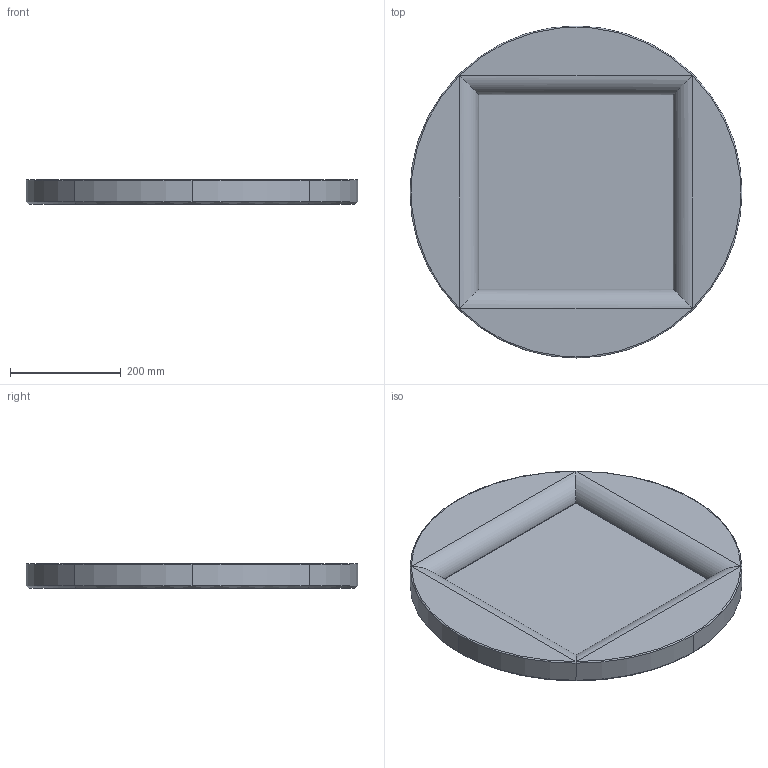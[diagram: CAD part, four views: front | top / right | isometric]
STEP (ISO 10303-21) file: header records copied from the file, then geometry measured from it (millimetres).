
FILE_DESCRIPTION (( 'STEP AP203' ), '1' );
FILE_NAME ('SIGNET MIRROR 60.STEP', '2025-08-29T11:24:36', ( '' ), ( '' ), 'SwSTEP 2.0', 'SolidWorks 2025', '' );
FILE_SCHEMA (( 'CONFIG_CONTROL_DESIGN' ));
Length unit declared in the file: millimetre
Products named in the file (2): SIGNET MIRROR 60; Group1^SIGNET MIRROR 60
Assembly tree (1 placements, depth 2):
  SIGNET MIRROR 60
    Group1^SIGNET MIRROR 60
Bounding box: 600 x 600 x 45 mm (x, y, z)
Volume: 7633288.9 mm3; surface area: 973948.9 mm2
Topology: 2 solids, 2 shells, 60 faces, 124 edges, 68 vertices
Faces by surface type: plane 40, cylinder 12, torus 4, cone 4
Entity records: 1718 total; most frequent: DIRECTION 276, CARTESIAN_POINT 268, ORIENTED_EDGE 248, EDGE_CURVE 124, LINE 92, VECTOR 92, AXIS2_PLACEMENT_3D 92, VERTEX_POINT 68
